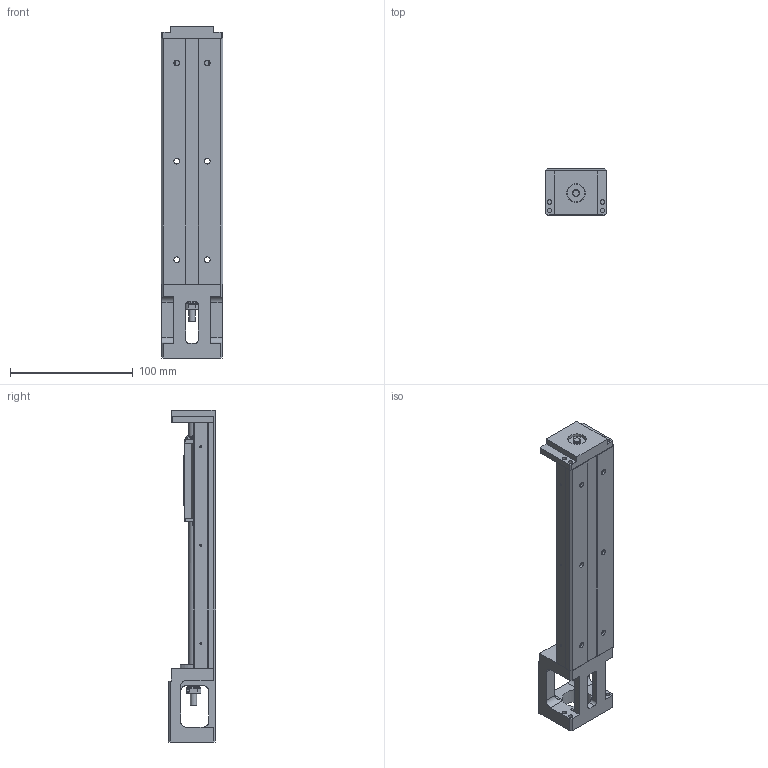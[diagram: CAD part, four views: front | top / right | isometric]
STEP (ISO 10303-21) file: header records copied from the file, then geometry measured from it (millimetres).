
FILE_DESCRIPTION(/* description */ (''),/* implementation_level */ '2;1');
FILE_NAME(/* name */ '26-200.stp',/* time_stamp */ '2016-12-16T14:54:57+08:00',/* author */ (''),/* organization */ (''),/* preprocessor_version */ 'ST-DEVELOPER v11',/* originating_system */ 'SIEMENS UGS NX 6.0',/* authorisation */ '');
FILE_SCHEMA (('AUTOMOTIVE_DESIGN { 1 0 10303 214 1 1 1 1 }'));
Length unit declared in the file: millimetre
Products named in the file (1): model4
Bounding box: 50 x 38.5 x 270 mm (x, y, z)
Volume: 208498.1 mm3; surface area: 73852.4 mm2
Topology: 5 solids, 10 shells, 645 faces, 1682 edges, 1081 vertices
Faces by surface type: plane 333, cylinder 222, cone 59, bspline 20, torus 6, extrusion 4, sphere 1
Full cylindrical faces by diameter (mm): 1.6 x6, 2.42 x2, 2.5 x5, 2.8 x6, 3.2 x4, 3.3 x2, 3.5 x6, 4 x4, 4.5 x6, 5 x7, 5.7 x1, 6 x9, 8 x31, 9 x2, 10 x1, 15 x2, 16.9 x1
Entity records: 28794 total; most frequent: CARTESIAN_POINT 11202, DIRECTION 2939, ORIENTED_EDGE 2912, EDGE_CURVE 1456, AXIS2_PLACEMENT_3D 1038, VERTEX_POINT 1009, VECTOR 863, LINE 859
